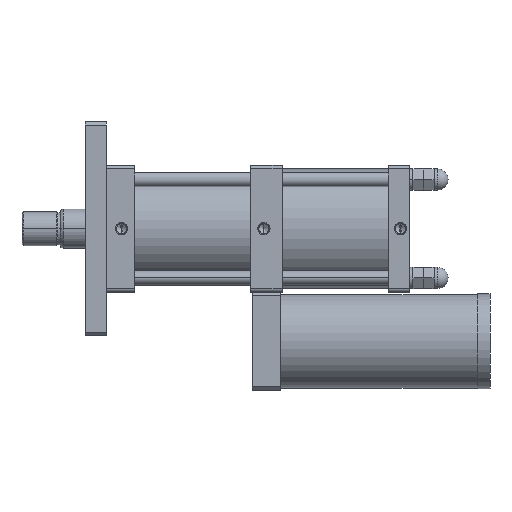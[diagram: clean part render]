
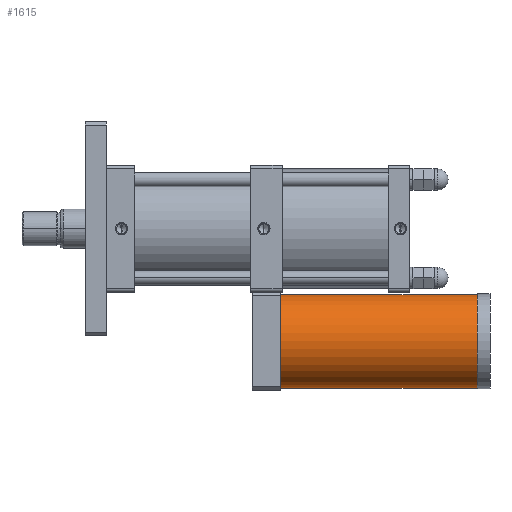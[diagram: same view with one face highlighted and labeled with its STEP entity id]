
A CAD part, front view. The second image highlights one B-rep face of the part: STEP entity #1615.
In plain terms, the highlighted cylindrical face has radius 66.5 mm (diameter 133 mm), a partial arc.
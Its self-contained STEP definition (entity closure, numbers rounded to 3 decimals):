
#182 = CARTESIAN_POINT ( 'NONE',  ( 367.5, 0., -226.5 ) ) ;
#402 = VECTOR ( 'NONE', #1932, 1000. ) ;
#994 = CIRCLE ( 'NONE', #6267, 66.5 ) ;
#1615 = ADVANCED_FACE ( 'NONE', ( #1679 ), #8607, .T. ) ;
#1679 = FACE_OUTER_BOUND ( 'NONE', #2715, .T. ) ;
#1880 = LINE ( 'NONE', #6038, #3483 ) ;
#1932 = DIRECTION ( 'NONE',  ( -1., 0., 0. ) ) ;
#2082 = CARTESIAN_POINT ( 'NONE',  ( 647.5, 0., -160. ) ) ;
#2715 = EDGE_LOOP ( 'NONE', ( #8730, #7939, #6941, #3536 ) ) ;
#2770 = DIRECTION ( 'NONE',  ( 0., 0., -1. ) ) ;
#3348 = VERTEX_POINT ( 'NONE', #7666 ) ;
#3483 = VECTOR ( 'NONE', #6740, 1000. ) ;
#3536 = ORIENTED_EDGE ( 'NONE', *, *, #5171, .T. ) ;
#3584 = CARTESIAN_POINT ( 'NONE',  ( 367.5, 0., -160. ) ) ;
#3636 = DIRECTION ( 'NONE',  ( 0., 0., 1. ) ) ;
#4313 = DIRECTION ( 'NONE',  ( 0., 0., -1. ) ) ;
#4364 = CARTESIAN_POINT ( 'NONE',  ( 647.5, 0., -160. ) ) ;
#4932 = CARTESIAN_POINT ( 'NONE',  ( 367.5, 0., -93.5 ) ) ;
#5022 = AXIS2_PLACEMENT_3D ( 'NONE', #2082, #6933, #2770 ) ;
#5171 = EDGE_CURVE ( 'NONE', #5691, #5206, #994, .T. ) ;
#5206 = VERTEX_POINT ( 'NONE', #182 ) ;
#5691 = VERTEX_POINT ( 'NONE', #4932 ) ;
#5741 = DIRECTION ( 'NONE',  ( -1., 0., 0. ) ) ;
#5981 = CARTESIAN_POINT ( 'NONE',  ( 647.5, 0., -226.5 ) ) ;
#6038 = CARTESIAN_POINT ( 'NONE',  ( 647.5, 0., -93.5 ) ) ;
#6083 = CARTESIAN_POINT ( 'NONE',  ( 647.5, 0., -226.5 ) ) ;
#6267 = AXIS2_PLACEMENT_3D ( 'NONE', #3584, #8433, #4313 ) ;
#6401 = EDGE_CURVE ( 'NONE', #8322, #5206, #7753, .T. ) ;
#6740 = DIRECTION ( 'NONE',  ( -1., 0., 0. ) ) ;
#6933 = DIRECTION ( 'NONE',  ( 1., 0., 0. ) ) ;
#6941 = ORIENTED_EDGE ( 'NONE', *, *, #8698, .T. ) ;
#6991 = CIRCLE ( 'NONE', #5022, 66.5 ) ;
#7038 = AXIS2_PLACEMENT_3D ( 'NONE', #4364, #5741, #3636 ) ;
#7306 = EDGE_CURVE ( 'NONE', #3348, #8322, #6991, .T. ) ;
#7666 = CARTESIAN_POINT ( 'NONE',  ( 647.5, 0., -93.5 ) ) ;
#7753 = LINE ( 'NONE', #6083, #402 ) ;
#7939 = ORIENTED_EDGE ( 'NONE', *, *, #7306, .F. ) ;
#8322 = VERTEX_POINT ( 'NONE', #5981 ) ;
#8433 = DIRECTION ( 'NONE',  ( 1., 0., 0. ) ) ;
#8607 = CYLINDRICAL_SURFACE ( 'NONE', #7038, 66.5 ) ;
#8698 = EDGE_CURVE ( 'NONE', #3348, #5691, #1880, .T. ) ;
#8730 = ORIENTED_EDGE ( 'NONE', *, *, #6401, .F. ) ;
